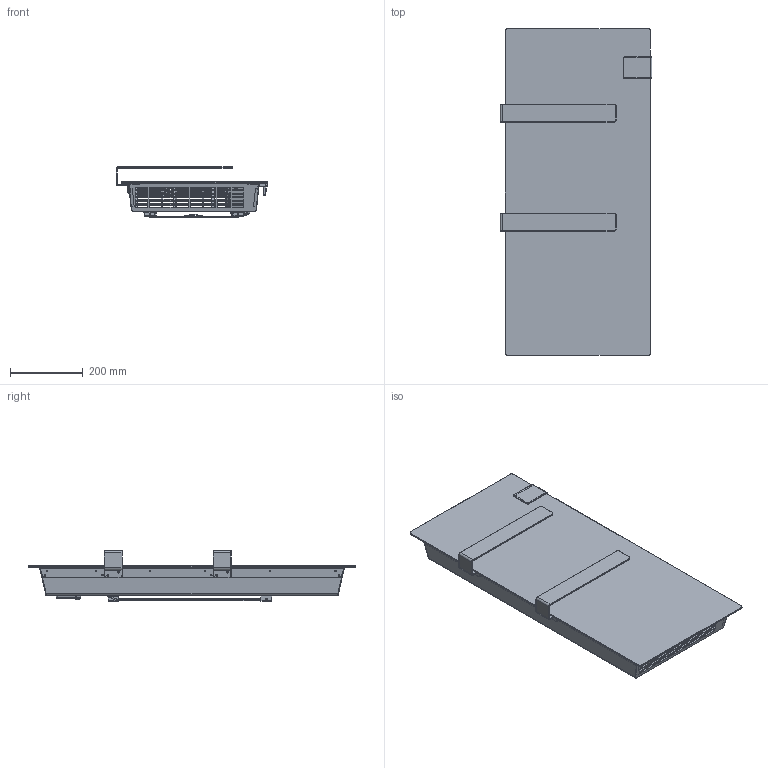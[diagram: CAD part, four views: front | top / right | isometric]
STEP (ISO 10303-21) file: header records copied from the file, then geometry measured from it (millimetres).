
FILE_DESCRIPTION(('FreeCAD Model'),'2;1');
FILE_NAME('Open CASCADE Shape Model','2026-06-15T11:36:11',(''),(''), 'Open CASCADE STEP processor 7.8','FreeCAD','Unknown');
FILE_SCHEMA(('AUTOMOTIVE_DESIGN { 1 0 10303 214 1 1 1 1 }'));
Length unit declared in the file: millimetre
Products named in the file (17): Unnamed; ONS_GR-POSTERIORE_ASM; ONS_POSTERIORE; DEK_AGGANCIO-SUPPORTO; ONS_GR-COMANDI_ASM; ONS_FONDO-SCATOLA-COMANDI; ONS_MASCHERINA-COMANDI; ONS_GR-VETRO_ASM; ONS_VETRO; SOLID011; ONS_SPALLA-FISSAGGIO-LAT-SX; ONS_SPALLA-FISSAGGIO-LAT-DX; ICO_GR-SUPPORTO-MURALE_750-1000_ASM; ICO_SUPPORTO-MURALE-SUP; GLA_TRAVERSA-SUPPORTO; ICO_SUPPORTO-MURALE-INF; ONS_BARRA-PORTASALVIETTE
Assembly tree (18 placements, depth 4):
  Unnamed
    ONS_GR-POSTERIORE_ASM
      ONS_POSTERIORE
      DEK_AGGANCIO-SUPPORTO  x2
    ONS_GR-COMANDI_ASM
      ONS_FONDO-SCATOLA-COMANDI
    ONS_MASCHERINA-COMANDI
    ONS_GR-VETRO_ASM
      ONS_VETRO
        SOLID011
      ONS_SPALLA-FISSAGGIO-LAT-SX
      ONS_SPALLA-FISSAGGIO-LAT-DX
    ICO_GR-SUPPORTO-MURALE_750-1000_ASM
      ICO_SUPPORTO-MURALE-SUP
      GLA_TRAVERSA-SUPPORTO
      ICO_SUPPORTO-MURALE-INF
    ONS_BARRA-PORTASALVIETTE  x2
Bounding box: 418.4 x 900 x 139.74 mm (x, y, z)
Volume: 2140340.9 mm3; surface area: 2018519.8 mm2
Topology: 13 solids, 13 shells, 2321 faces, 6233 edges, 3934 vertices
Faces by surface type: plane 1269, cylinder 697, bspline 196, cone 96, torus 51, sphere 12
Entity records: 82379 total; most frequent: CARTESIAN_POINT 26956, ORIENTED_EDGE 12014, DIRECTION 10510, EDGE_CURVE 6007, LINE 4012, VECTOR 4012, VERTEX_POINT 3806, AXIS2_PLACEMENT_3D 3249
